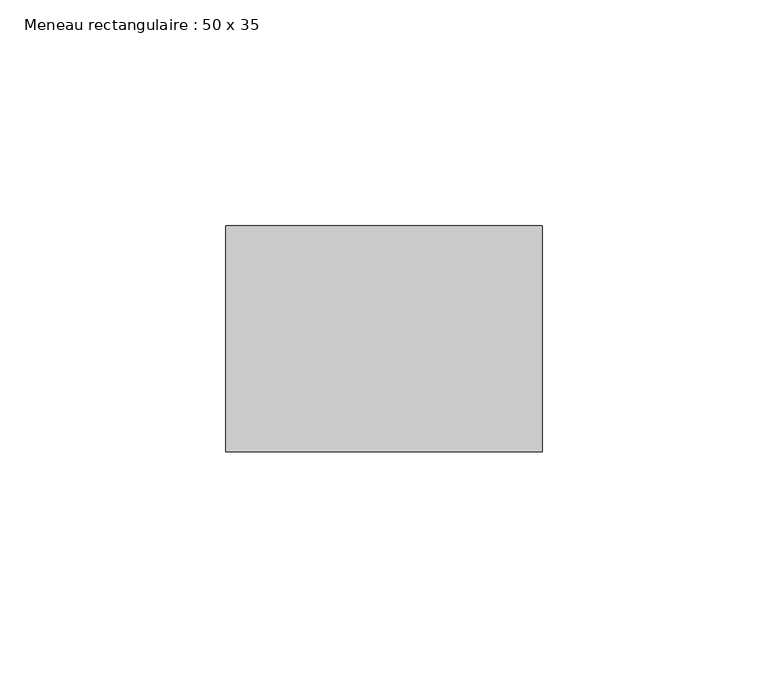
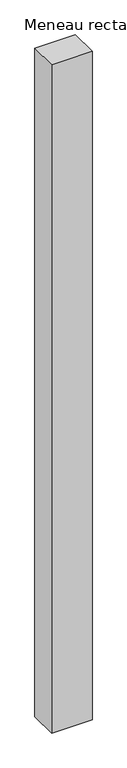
"""IFC4 building model written with IfcOpenShell, lengths in millimetres: member geometry, Meneau rectangulaire : 50 x 35."""

from ifc_helpers import new_model, si_unit, frame, origin, place, context, project, spatial, polyline, outline, extrude, source, transform, mapped, element, save


def meneau_rectangulaire_50_x_35_6b138731(model_context):
    return source(origin(), model_context, "Body", "SweptSolid", [
        extrude(outline(polyline([(0.0, 0.0), (0.0, -50.0), (-70.0, -50.0), (-70.0, 0.0), (0.0, 0.0)])), frame((0.0, 0.0, -1221.6467944), z_axis=(0.0, 0.0, 1.0), x_axis=(1.0, 0.0, 0.0)), (0.0, 0.0, 1.0), 1221.6467944),
    ])


if __name__ == "__main__":
    model = new_model("IFC4")
    model_context = context("Model", 3, world=origin())
    ifc_project = project(units=[si_unit("LENGTHUNIT", "METRE", prefix="MILLI")], contexts=[model_context])
    site = spatial("IfcSite", under=ifc_project)
    building = spatial("IfcBuilding", under=site)
    placement = place(None, origin())
    meneau_rectangulaire_50_x_35_shape = meneau_rectangulaire_50_x_35_6b138731(model_context)
    element("IfcMember", 1, ObjectType="Meneau rectangulaire : 50 x 35", at=placement, inside=building, context=model_context, shape_type="MappedRepresentation", body=[
        mapped(meneau_rectangulaire_50_x_35_shape, transform((0.0, 0.0, 0.0), x_axis=(1.0, 0.0, 0.0), y_axis=(0.0, 1.0, 0.0), z_axis=(0.0, 0.0, 1.0))),
    ])
    save(model, "model.ifc")
